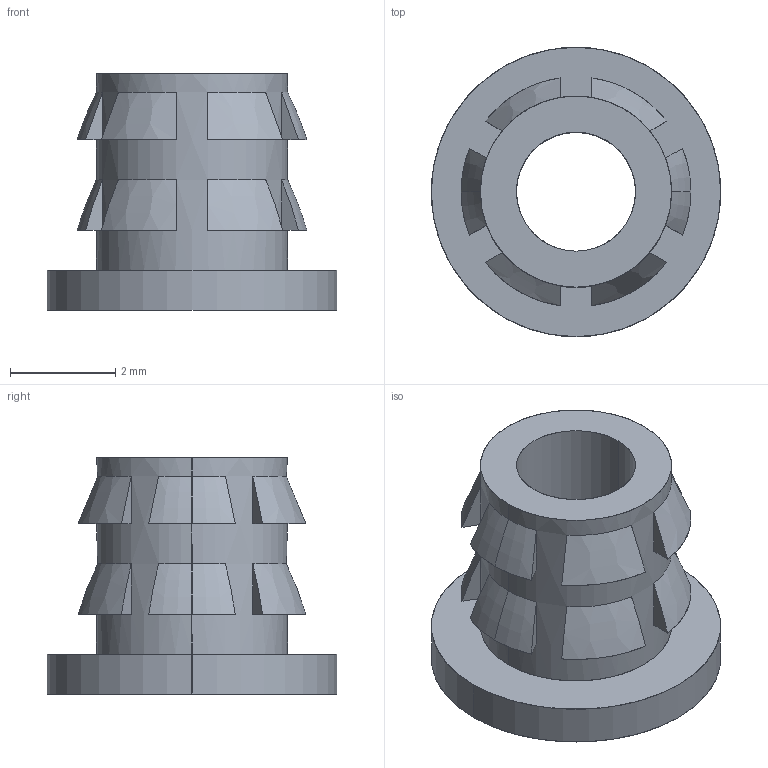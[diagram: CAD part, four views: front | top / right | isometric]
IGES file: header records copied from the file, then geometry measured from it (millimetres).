
Start section: SolidWorks IGES file using analytic representation for surfaces
Global section: file name: G:\thermofab project\INSERT\insert project\INSERT 3D\Flanged Insert 4-40 S1.IGS; native system: SolidWorks 2015; preprocessor: SolidWorks 2015; author: Administrator; date: 170809.183644; units: millimetre
Bounding box: 5.5 x 5.5 x 4.5 mm (x, y, z)
Surface area: 139.9 mm2 (no closed solid volume)
Topology: 0 solids, 0 shells, 63 faces, 544 edges, 544 vertices
Faces by surface type: bspline 55, revolution 8
